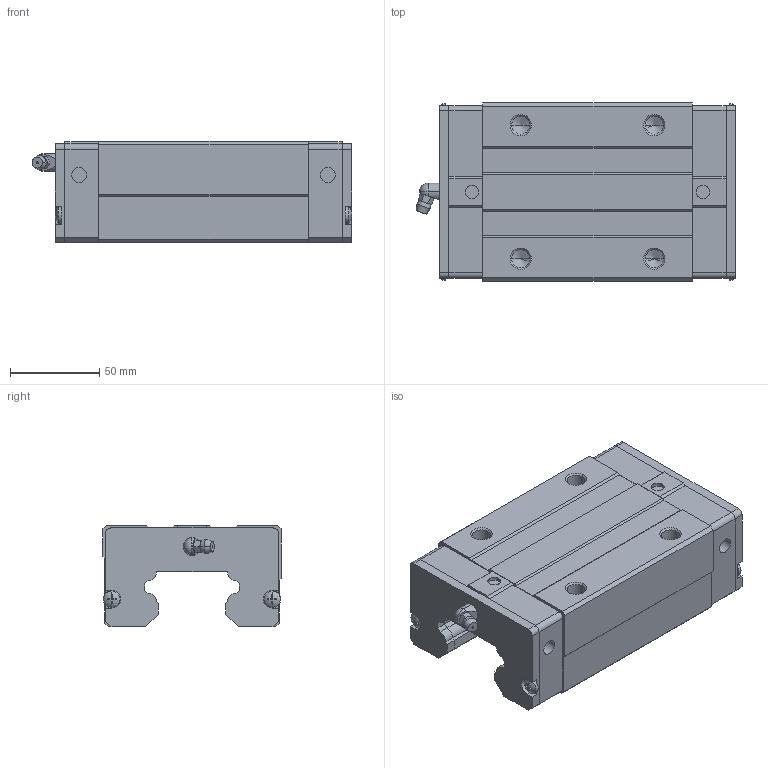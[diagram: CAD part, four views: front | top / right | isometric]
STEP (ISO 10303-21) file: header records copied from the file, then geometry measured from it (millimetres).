
FILE_DESCRIPTION(('starvars output'),'2;1');
FILE_NAME('cv20190625225615000064920.stp','22:56:16 2019/06/25',( 'Thomas Industrial Network Germany GmbH'),( 'Thomas Industrial Network Germany GmbH'),'unknown preprocess','ACIS' ,'unknown authorization');
FILE_SCHEMA(('CONFIG_CONTROL_DESIGN {UNKNOWN IMPLEMENTATION LEVEL}'));
Length unit declared in the file: millimetre
Products named in the file (10): PRODUCT_ID_1; PRODUCT_ID_2; PRODUCT_ID_3; PRODUCT_ID_4; PRODUCT_ID_5; PRODUCT_ID_6; PRODUCT_ID_7; PRODUCT_ID_8; PRODUCT_ID_9; PRODUCT_ID_10
Bounding box: 179.6 x 100 x 57 mm (x, y, z)
Volume: 686215 mm3; surface area: 109986.8 mm2
Topology: 10 solids, 10 shells, 392 faces, 1001 edges, 635 vertices
Faces by surface type: plane 244, cone 70, cylinder 66, sphere 12
Entity records: 11374 total; most frequent: ORIENTED_EDGE 1978, CARTESIAN_POINT 1875, DIRECTION 1563, EDGE_CURVE 989, VERTEX_POINT 635, VECTOR 629, LINE 629, AXIS2_PLACEMENT_3D 467
